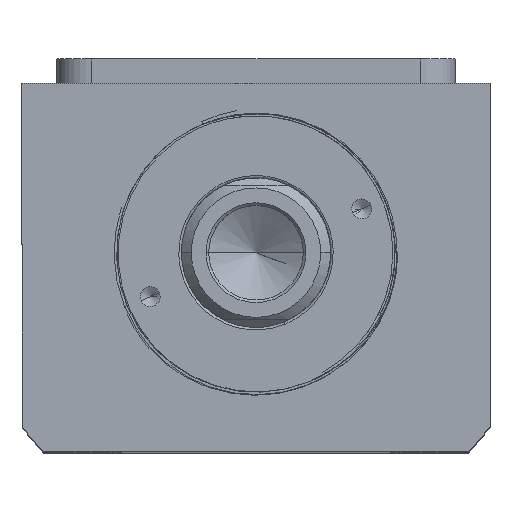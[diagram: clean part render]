
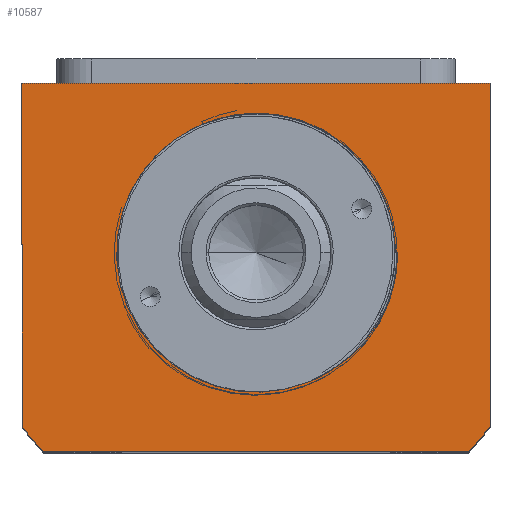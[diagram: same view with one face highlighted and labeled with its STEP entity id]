
A CAD part, top view. The second image highlights one B-rep face of the part: STEP entity #10587.
In plain terms, the highlighted planar face has unit normal (0, 0, 1).
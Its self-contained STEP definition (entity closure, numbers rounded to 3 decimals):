
#337 = CARTESIAN_POINT ( 'NONE',  ( -47., 34., 65. ) ) ;
#378 = DIRECTION ( 'NONE',  ( 0., 0., 1. ) ) ;
#458 = VERTEX_POINT ( 'NONE', #5084 ) ;
#476 = CARTESIAN_POINT ( 'NONE',  ( 0., 0., 65. ) ) ;
#633 = ORIENTED_EDGE ( 'NONE', *, *, #2360, .T. ) ;
#781 = CARTESIAN_POINT ( 'NONE',  ( 18.667, -21.077, 65. ) ) ;
#813 = EDGE_CURVE ( 'NONE', #10090, #458, #8060, .T. ) ;
#863 = CARTESIAN_POINT ( 'NONE',  ( 21.684, -18.094, 65. ) ) ;
#1220 = VERTEX_POINT ( 'NONE', #9762 ) ;
#1643 = CARTESIAN_POINT ( 'NONE',  ( 28.495, 0., 65. ) ) ;
#1686 = CARTESIAN_POINT ( 'NONE',  ( 24.898, -13.504, 65. ) ) ;
#1723 = CARTESIAN_POINT ( 'NONE',  ( 26.163, -10.961, 65. ) ) ;
#1736 = ORIENTED_EDGE ( 'NONE', *, *, #10518, .T. ) ;
#1830 = VERTEX_POINT ( 'NONE', #3893 ) ;
#1895 = ORIENTED_EDGE ( 'NONE', *, *, #4965, .T. ) ;
#2100 = VERTEX_POINT ( 'NONE', #5060 ) ;
#2358 = DIRECTION ( 'NONE',  ( 0., -1., 0. ) ) ;
#2360 = EDGE_CURVE ( 'NONE', #3413, #5526, #10489, .T. ) ;
#2372 = VECTOR ( 'NONE', #2358, 1000. ) ;
#2404 = CARTESIAN_POINT ( 'NONE',  ( 42.688, -40., 65. ) ) ;
#2486 = EDGE_CURVE ( 'NONE', #5526, #2100, #8546, .T. ) ;
#2545 = CARTESIAN_POINT ( 'NONE',  ( 28.449, -1.419, 65. ) ) ;
#2552 = EDGE_CURVE ( 'NONE', #4975, #1220, #5015, .T. ) ;
#2697 = CARTESIAN_POINT ( 'NONE',  ( 28.495, 0., 65. ) ) ;
#3146 = DIRECTION ( 'NONE',  ( 0., 1., 0. ) ) ;
#3167 = DIRECTION ( 'NONE',  ( 0., 0., 1. ) ) ;
#3346 = CIRCLE ( 'NONE', #9857, 58.5 ) ;
#3413 = VERTEX_POINT ( 'NONE', #11389 ) ;
#3430 = CARTESIAN_POINT ( 'NONE',  ( 28.485, -0.71, 65. ) ) ;
#3543 = CARTESIAN_POINT ( 'NONE',  ( 10.89, -25.816, 65. ) ) ;
#3588 = CARTESIAN_POINT ( 'NONE',  ( 13.459, -24.624, 65. ) ) ;
#3672 = CARTESIAN_POINT ( 'NONE',  ( -42.688, -40., 65. ) ) ;
#3673 = CIRCLE ( 'NONE', #11045, 28. ) ;
#3893 = CARTESIAN_POINT ( 'NONE',  ( 10.232, -26.064, 65. ) ) ;
#4076 = CARTESIAN_POINT ( 'NONE',  ( 0., 0., 65. ) ) ;
#4325 = CARTESIAN_POINT ( 'NONE',  ( 28.323, -2.832, 65. ) ) ;
#4520 = EDGE_CURVE ( 'NONE', #1830, #1220, #3673, .T. ) ;
#4569 = LINE ( 'NONE', #9933, #8926 ) ;
#4703 = VECTOR ( 'NONE', #6646, 1000. ) ;
#4755 = CARTESIAN_POINT ( 'NONE',  ( 42.688, -40., 65. ) ) ;
#4808 = DIRECTION ( 'NONE',  ( 1., 0., 0. ) ) ;
#4820 = PLANE ( 'NONE',  #8811 ) ;
#4826 = DIRECTION ( 'NONE',  ( 1., 0., 0. ) ) ;
#4965 = EDGE_CURVE ( 'NONE', #4975, #1830, #10748, .T. ) ;
#4975 = VERTEX_POINT ( 'NONE', #1643 ) ;
#5010 = DIRECTION ( 'NONE',  ( 1., 0., 0. ) ) ;
#5015 = LINE ( 'NONE', #10439, #7699 ) ;
#5060 = CARTESIAN_POINT ( 'NONE',  ( -47., -34.832, 65. ) ) ;
#5084 = CARTESIAN_POINT ( 'NONE',  ( 47., -34.832, 65. ) ) ;
#5121 = FACE_OUTER_BOUND ( 'NONE', #9137, .T. ) ;
#5134 = VERTEX_POINT ( 'NONE', #3672 ) ;
#5224 = CARTESIAN_POINT ( 'NONE',  ( 26.694, -9.657, 65. ) ) ;
#5270 = CARTESIAN_POINT ( 'NONE',  ( 18.129, -21.529, 65. ) ) ;
#5350 = CARTESIAN_POINT ( 'NONE',  ( 19.714, -20.129, 65. ) ) ;
#5389 = CARTESIAN_POINT ( 'NONE',  ( 27.887, -5.628, 65. ) ) ;
#5526 = VERTEX_POINT ( 'NONE', #6051 ) ;
#6051 = CARTESIAN_POINT ( 'NONE',  ( -47., 34., 65. ) ) ;
#6143 = CARTESIAN_POINT ( 'NONE',  ( 16.467, -22.819, 65. ) ) ;
#6216 = CARTESIAN_POINT ( 'NONE',  ( 22.571, -17.007, 65. ) ) ;
#6275 = LINE ( 'NONE', #4755, #6978 ) ;
#6376 = ORIENTED_EDGE ( 'NONE', *, *, #813, .T. ) ;
#6380 = ORIENTED_EDGE ( 'NONE', *, *, #9846, .T. ) ;
#6569 = FACE_BOUND ( 'NONE', #7343, .T. ) ;
#6646 = DIRECTION ( 'NONE',  ( -1., 0., 0. ) ) ;
#6687 = DIRECTION ( 'NONE',  ( 0., 0., 1. ) ) ;
#6978 = VECTOR ( 'NONE', #8377, 1000. ) ;
#7343 = EDGE_LOOP ( 'NONE', ( #7503, #1895, #9112 ) ) ;
#7503 = ORIENTED_EDGE ( 'NONE', *, *, #2552, .F. ) ;
#7699 = VECTOR ( 'NONE', #8661, 1000. ) ;
#7714 = ORIENTED_EDGE ( 'NONE', *, *, #8261, .T. ) ;
#8060 = CIRCLE ( 'NONE', #9536, 58.5 ) ;
#8261 = EDGE_CURVE ( 'NONE', #2100, #5134, #3346, .T. ) ;
#8377 = DIRECTION ( 'NONE',  ( 1., 0., 0. ) ) ;
#8446 = DIRECTION ( 'NONE',  ( 1., 0., 0. ) ) ;
#8546 = LINE ( 'NONE', #9424, #2372 ) ;
#8626 = ORIENTED_EDGE ( 'NONE', *, *, #2486, .T. ) ;
#8661 = DIRECTION ( 'NONE',  ( -1., 0., 0. ) ) ;
#8808 = CARTESIAN_POINT ( 'NONE',  ( 15.3, -23.593, 65. ) ) ;
#8811 = AXIS2_PLACEMENT_3D ( 'NONE', #11129, #378, #8446 ) ;
#8845 = CARTESIAN_POINT ( 'NONE',  ( 27.555, -6.99, 65. ) ) ;
#8926 = VECTOR ( 'NONE', #3146, 1000. ) ;
#8970 = CARTESIAN_POINT ( 'NONE',  ( 24.178, -14.712, 65. ) ) ;
#9112 = ORIENTED_EDGE ( 'NONE', *, *, #4520, .T. ) ;
#9137 = EDGE_LOOP ( 'NONE', ( #633, #8626, #7714, #6380, #6376, #1736 ) ) ;
#9424 = CARTESIAN_POINT ( 'NONE',  ( -47., -34.832, 65. ) ) ;
#9536 = AXIS2_PLACEMENT_3D ( 'NONE', #10234, #6687, #4826 ) ;
#9759 = CARTESIAN_POINT ( 'NONE',  ( 11.542, -25.544, 65. ) ) ;
#9762 = CARTESIAN_POINT ( 'NONE',  ( 28., 0., 65. ) ) ;
#9846 = EDGE_CURVE ( 'NONE', #5134, #10090, #6275, .T. ) ;
#9857 = AXIS2_PLACEMENT_3D ( 'NONE', #476, #3167, #4808 ) ;
#9881 = CARTESIAN_POINT ( 'NONE',  ( 12.831, -24.945, 65. ) ) ;
#9933 = CARTESIAN_POINT ( 'NONE',  ( 47., 34., 65. ) ) ;
#10090 = VERTEX_POINT ( 'NONE', #2404 ) ;
#10234 = CARTESIAN_POINT ( 'NONE',  ( 0., 0., 65. ) ) ;
#10421 = DIRECTION ( 'NONE',  ( 0., 0., -1. ) ) ;
#10439 = CARTESIAN_POINT ( 'NONE',  ( 0., 0., 65. ) ) ;
#10489 = LINE ( 'NONE', #337, #4703 ) ;
#10518 = EDGE_CURVE ( 'NONE', #458, #3413, #4569, .T. ) ;
#10587 = ADVANCED_FACE ( 'NONE', ( #6569, #5121 ), #4820, .T. ) ;
#10637 = CARTESIAN_POINT ( 'NONE',  ( 28.233, -3.538, 65. ) ) ;
#10745 = CARTESIAN_POINT ( 'NONE',  ( 20.224, -19.631, 65. ) ) ;
#10748 = B_SPLINE_CURVE_WITH_KNOTS ( 'NONE', 3,
 ( #2697, #3430, #2545, #4325, #10637, #5389, #8845, #5224, #1723, #1686, #8970, #6216, #863, #10745, #5350, #781, #5270, #6143, #8808, #3588, #9881, #9759, #3543, #11568 ),
 .UNSPECIFIED., .F., .F.,
 ( 4, 2, 2, 2, 2, 2, 2, 2, 2, 2, 2, 4 ),
 ( 0., 0.002, 0.004, 0.009, 0.013, 0.017, 0.021, 0.023, 0.026, 0.03, 0.032, 0.034 ),
 .UNSPECIFIED. ) ;
#11045 = AXIS2_PLACEMENT_3D ( 'NONE', #4076, #10421, #5010 ) ;
#11129 = CARTESIAN_POINT ( 'NONE',  ( 0., 0., 65. ) ) ;
#11389 = CARTESIAN_POINT ( 'NONE',  ( 47., 34., 65. ) ) ;
#11568 = CARTESIAN_POINT ( 'NONE',  ( 10.232, -26.064, 65. ) ) ;
